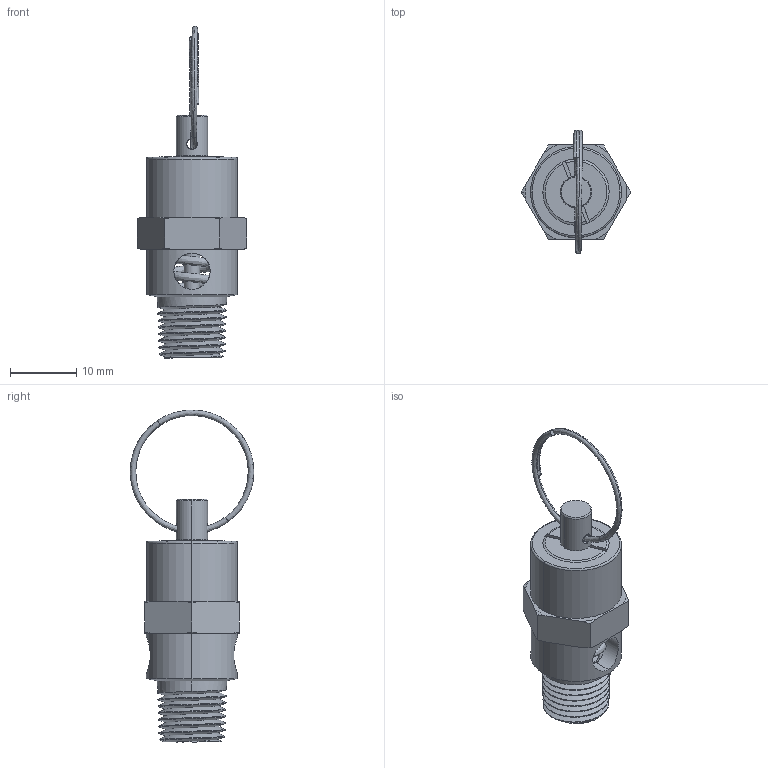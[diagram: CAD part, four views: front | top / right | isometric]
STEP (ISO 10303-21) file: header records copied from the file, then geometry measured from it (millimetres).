
FILE_DESCRIPTION (( 'STEP AP203' ), '1' );
FILE_NAME ('CVM1-SERIES.STEP', '2022-11-30T16:13:06', ( '' ), ( '' ), 'SwSTEP 2.0', 'SolidWorks 2021', '' );
FILE_SCHEMA (( 'CONFIG_CONTROL_DESIGN' ));
Length unit declared in the file: inch
Products named in the file (1): CVM1-SERIES
Bounding box: 16.5 x 18.62 x 50.02 mm (x, y, z)
Volume: 3364.5 mm3; surface area: 2823.3 mm2
Topology: 1 solids, 1 shells, 115 faces, 317 edges, 206 vertices
Faces by surface type: cone 43, cylinder 36, plane 26, bspline 8, torus 2
Entity records: 10112 total; most frequent: CARTESIAN_POINT 7362, ORIENTED_EDGE 632, DIRECTION 463, EDGE_CURVE 316, VERTEX_POINT 204, AXIS2_PLACEMENT_3D 184, EDGE_LOOP 130, B_SPLINE_CURVE_WITH_KNOTS 117
